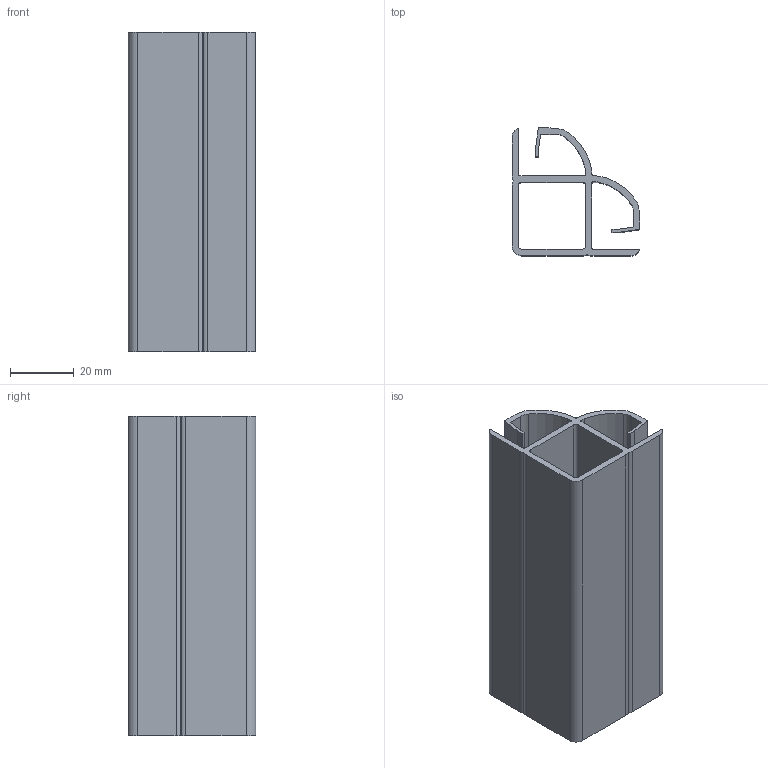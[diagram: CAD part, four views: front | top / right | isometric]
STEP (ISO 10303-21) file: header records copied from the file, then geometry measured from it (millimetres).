
FILE_DESCRIPTION (( 'STEP AP203' ), '1' );
FILE_NAME ('013.025.010.STEP', '2020-07-22T09:06:37', ( '' ), ( '' ), 'SwSTEP 2.0', 'SolidWorks 2018', '' );
FILE_SCHEMA (( 'CONFIG_CONTROL_DESIGN' ));
Length unit declared in the file: millimetre
Products named in the file (1): 013.025.010
Bounding box: 40 x 40 x 100 mm (x, y, z)
Volume: 34448.7 mm3; surface area: 37004.5 mm2
Topology: 1 solids, 1 shells, 64 faces, 186 edges, 124 vertices
Faces by surface type: plane 32, cylinder 28, bspline 4
Entity records: 2231 total; most frequent: CARTESIAN_POINT 427, ORIENTED_EDGE 372, DIRECTION 356, EDGE_CURVE 186, VERTEX_POINT 124, VECTOR 122, LINE 122, AXIS2_PLACEMENT_3D 117
